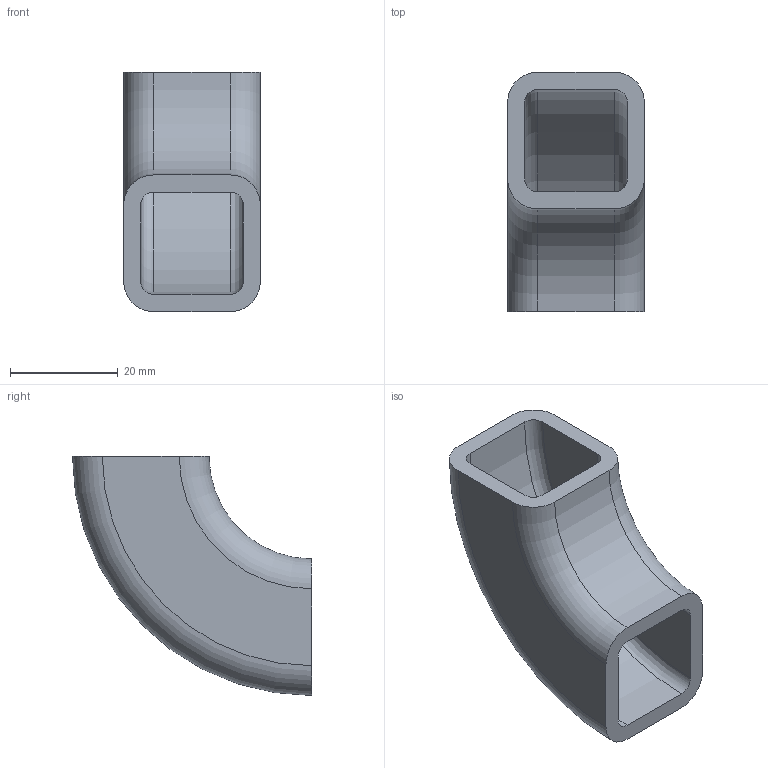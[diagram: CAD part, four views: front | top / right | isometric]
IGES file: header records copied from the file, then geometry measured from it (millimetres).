
Global section: file name: No Iges File Name specified; native system: Autodesk Inventor 2011; preprocessor: AutoDesk Inventor Iges Exporter R2011; author: bamfomg; date: 20110321.072946; units: inch
Bounding box: 25.4 x 44.45 x 44.45 mm (x, y, z)
Volume: 12998.1 mm3; surface area: 8709 mm2
Topology: 1 solids, 1 shells, 18 faces, 48 edges, 32 vertices
Faces by surface type: revolution 6, plane 6, torus 4, cylinder 2
